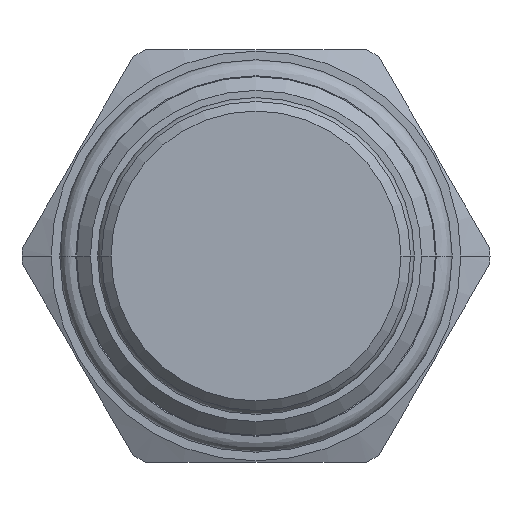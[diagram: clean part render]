
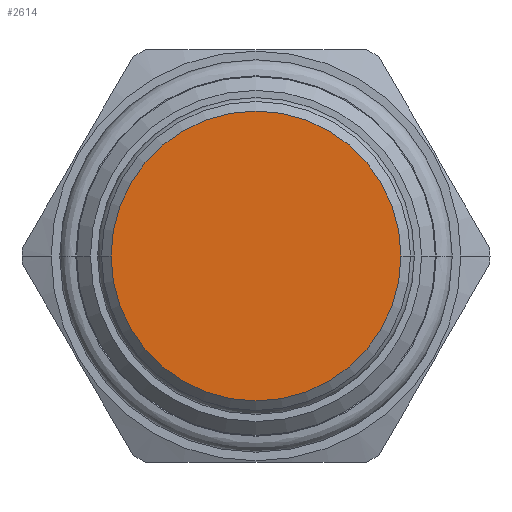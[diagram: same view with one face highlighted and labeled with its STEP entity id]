
A CAD part, front view. The second image highlights one B-rep face of the part: STEP entity #2614.
In plain terms, the highlighted planar face has unit normal (0, -1, 0).
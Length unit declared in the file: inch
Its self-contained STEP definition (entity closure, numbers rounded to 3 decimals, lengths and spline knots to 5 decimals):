
#1095=CARTESIAN_POINT('',(0.,-1.78751,0.));
#1096=DIRECTION('',(0.,1.,0.));
#1097=DIRECTION('',(1.,0.,0.));
#1098=AXIS2_PLACEMENT_3D('',#1095,#1096,#1097);
#1105=CARTESIAN_POINT('',(0.,-1.78751,0.));
#1106=DIRECTION('',(0.,1.,0.));
#1107=DIRECTION('',(-1.,0.,0.));
#1108=AXIS2_PLACEMENT_3D('',#1105,#1106,#1107);
#1143=CARTESIAN_POINT('',(0.527,-1.78751,0.));
#1144=CARTESIAN_POINT('',(-0.527,-1.78751,0.));
#1145=VERTEX_POINT('',#1143);
#1146=VERTEX_POINT('',#1144);
#2604=CARTESIAN_POINT('',(0.,-1.78751,0.));
#2605=DIRECTION('',(0.,1.,0.));
#2606=DIRECTION('',(1.,0.,0.));
#2607=AXIS2_PLACEMENT_3D('',#2604,#2605,#2606);
#2608=PLANE('',#2607);
#2609=ORIENTED_EDGE('',*,*,#2594,.T.);
#2611=ORIENTED_EDGE('',*,*,#2610,.T.);
#2612=EDGE_LOOP('',(#2609,#2611));
#2613=FACE_OUTER_BOUND('',#2612,.F.);
#2614=ADVANCED_FACE('',(#2613),#2608,.F.);
#1099=CIRCLE('',#1098,0.527);
#1109=CIRCLE('',#1108,0.527);
#2594=EDGE_CURVE('',#1145,#1146,#1099,.T.);
#2610=EDGE_CURVE('',#1146,#1145,#1109,.T.);
